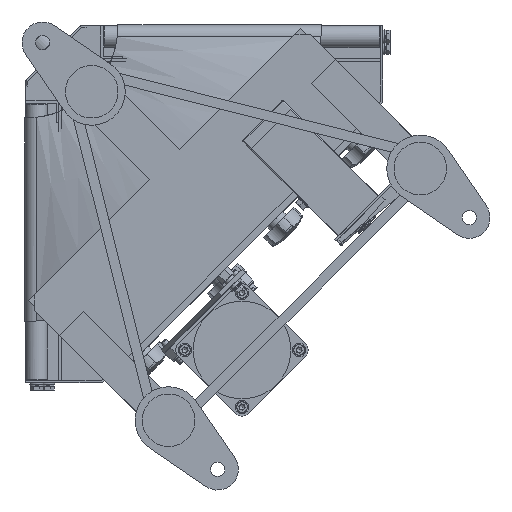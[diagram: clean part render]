
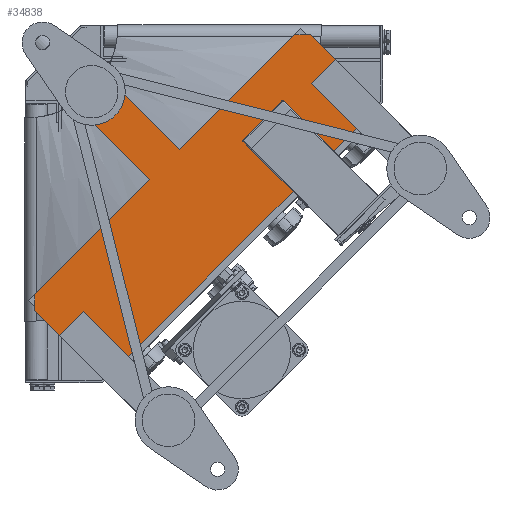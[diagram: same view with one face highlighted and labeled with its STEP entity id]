
A CAD part, front view. The second image highlights one B-rep face of the part: STEP entity #34838.
In plain terms, the highlighted planar face has unit normal (0, -1, 0).
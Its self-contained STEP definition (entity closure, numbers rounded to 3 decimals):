
#2480 = ORIENTED_EDGE ( 'NONE', *, *, #15204, .T. ) ;
#2736 = LINE ( 'NONE', #36239, #4866 ) ;
#3582 = DIRECTION ( 'NONE',  ( 0., 0., -1. ) ) ;
#3995 = VERTEX_POINT ( 'NONE', #4315 ) ;
#4315 = CARTESIAN_POINT ( 'NONE',  ( 39.598, -167.5, -12.728 ) ) ;
#4706 = LINE ( 'NONE', #39845, #39663 ) ;
#4866 = VECTOR ( 'NONE', #49592, 1000. ) ;
#5747 = EDGE_CURVE ( 'NONE', #18286, #42834, #27038, .T. ) ;
#5951 = LINE ( 'NONE', #25533, #46385 ) ;
#6397 = VERTEX_POINT ( 'NONE', #47225 ) ;
#6838 = CARTESIAN_POINT ( 'NONE',  ( 8.132, -167.5, -259.155 ) ) ;
#7046 = DIRECTION ( 'NONE',  ( 0.707, 0., -0.707 ) ) ;
#7194 = DIRECTION ( 'NONE',  ( -0.707, 0., -0.707 ) ) ;
#7715 = PLANE ( 'NONE',  #40273 ) ;
#8864 = ORIENTED_EDGE ( 'NONE', *, *, #52471, .F. ) ;
#9828 = DIRECTION ( 'NONE',  ( -0.707, 0., -0.707 ) ) ;
#10120 = VECTOR ( 'NONE', #7194, 1000. ) ;
#10791 = ORIENTED_EDGE ( 'NONE', *, *, #17393, .T. ) ;
#13250 = EDGE_LOOP ( 'NONE', ( #47433, #2480, #14316, #37993, #30330, #41668, #10791, #33234, #38065, #8864 ) ) ;
#14316 = ORIENTED_EDGE ( 'NONE', *, *, #42445, .T. ) ;
#15204 = EDGE_CURVE ( 'NONE', #41971, #35317, #23435, .T. ) ;
#15475 = VECTOR ( 'NONE', #7046, 1000. ) ;
#15833 = EDGE_CURVE ( 'NONE', #6397, #18286, #18312, .T. ) ;
#16033 = CARTESIAN_POINT ( 'NONE',  ( 12.728, -167.5, -39.598 ) ) ;
#16078 = CARTESIAN_POINT ( 'NONE',  ( 12.728, -167.5, -39.598 ) ) ;
#17393 = EDGE_CURVE ( 'NONE', #25834, #30349, #5951, .T. ) ;
#17764 = FACE_OUTER_BOUND ( 'NONE', #13250, .T. ) ;
#18286 = VERTEX_POINT ( 'NONE', #54275 ) ;
#18312 = LINE ( 'NONE', #6838, #15475 ) ;
#19226 = CARTESIAN_POINT ( 'NONE',  ( 140.007, -167.5, -113.137 ) ) ;
#19718 = LINE ( 'NONE', #43061, #20399 ) ;
#20399 = VECTOR ( 'NONE', #30462, 1000. ) ;
#20447 = DIRECTION ( 'NONE',  ( -1., 0., 0. ) ) ;
#21010 = CARTESIAN_POINT ( 'NONE',  ( 0., -167.5, 0. ) ) ;
#23106 = LINE ( 'NONE', #16033, #57164 ) ;
#23435 = LINE ( 'NONE', #51827, #10120 ) ;
#23575 = VECTOR ( 'NONE', #36753, 1000. ) ;
#25067 = VERTEX_POINT ( 'NONE', #19226 ) ;
#25250 = CARTESIAN_POINT ( 'NONE',  ( 8.132, -167.5, -245.012 ) ) ;
#25533 = CARTESIAN_POINT ( 'NONE',  ( 245.012, -167.5, -8.132 ) ) ;
#25609 = EDGE_CURVE ( 'NONE', #3995, #25067, #40282, .T. ) ;
#25834 = VERTEX_POINT ( 'NONE', #38966 ) ;
#26452 = DIRECTION ( 'NONE',  ( -0.707, 0., 0.707 ) ) ;
#27038 = LINE ( 'NONE', #32271, #23575 ) ;
#27409 = VERTEX_POINT ( 'NONE', #16078 ) ;
#27569 = DIRECTION ( 'NONE',  ( 0.707, 0., -0.707 ) ) ;
#27756 = CARTESIAN_POINT ( 'NONE',  ( 39.598, -167.5, -12.728 ) ) ;
#30330 = ORIENTED_EDGE ( 'NONE', *, *, #5747, .T. ) ;
#30349 = VERTEX_POINT ( 'NONE', #37622 ) ;
#30462 = DIRECTION ( 'NONE',  ( 0.707, 0., 0.707 ) ) ;
#32271 = CARTESIAN_POINT ( 'NONE',  ( 71.771, -167.5, -322.794 ) ) ;
#33234 = ORIENTED_EDGE ( 'NONE', *, *, #54414, .T. ) ;
#34838 = ADVANCED_FACE ( 'NONE', ( #17764 ), #7715, .T. ) ;
#35317 = VERTEX_POINT ( 'NONE', #25250 ) ;
#36239 = CARTESIAN_POINT ( 'NONE',  ( 8.132, -167.5, -259.155 ) ) ;
#36753 = DIRECTION ( 'NONE',  ( 0.707, 0., 0.707 ) ) ;
#37362 = EDGE_CURVE ( 'NONE', #42834, #25834, #4706, .T. ) ;
#37622 = CARTESIAN_POINT ( 'NONE',  ( 245.012, -167.5, -8.132 ) ) ;
#37993 = ORIENTED_EDGE ( 'NONE', *, *, #15833, .T. ) ;
#38065 = ORIENTED_EDGE ( 'NONE', *, *, #25609, .F. ) ;
#38966 = CARTESIAN_POINT ( 'NONE',  ( 259.155, -167.5, -8.132 ) ) ;
#39663 = VECTOR ( 'NONE', #26452, 1000. ) ;
#39845 = CARTESIAN_POINT ( 'NONE',  ( 259.155, -167.5, -8.132 ) ) ;
#40273 = AXIS2_PLACEMENT_3D ( 'NONE', #21010, #56991, #3582 ) ;
#40282 = LINE ( 'NONE', #27756, #43812 ) ;
#41668 = ORIENTED_EDGE ( 'NONE', *, *, #37362, .T. ) ;
#41971 = VERTEX_POINT ( 'NONE', #57254 ) ;
#42445 = EDGE_CURVE ( 'NONE', #35317, #6397, #2736, .T. ) ;
#42834 = VERTEX_POINT ( 'NONE', #50594 ) ;
#43061 = CARTESIAN_POINT ( 'NONE',  ( 12.728, -167.5, -39.598 ) ) ;
#43812 = VECTOR ( 'NONE', #27569, 1000. ) ;
#44951 = VECTOR ( 'NONE', #9828, 1000. ) ;
#46385 = VECTOR ( 'NONE', #20447, 1000. ) ;
#47225 = CARTESIAN_POINT ( 'NONE',  ( 8.132, -167.5, -259.155 ) ) ;
#47433 = ORIENTED_EDGE ( 'NONE', *, *, #55731, .F. ) ;
#48002 = LINE ( 'NONE', #50122, #44951 ) ;
#49592 = DIRECTION ( 'NONE',  ( 0., 0., -1. ) ) ;
#50122 = CARTESIAN_POINT ( 'NONE',  ( 8.132, -167.5, -245.012 ) ) ;
#50594 = CARTESIAN_POINT ( 'NONE',  ( 322.794, -167.5, -71.771 ) ) ;
#51472 = DIRECTION ( 'NONE',  ( -0.707, 0., 0.707 ) ) ;
#51827 = CARTESIAN_POINT ( 'NONE',  ( 8.132, -167.5, -245.012 ) ) ;
#52471 = EDGE_CURVE ( 'NONE', #27409, #3995, #19718, .T. ) ;
#54275 = CARTESIAN_POINT ( 'NONE',  ( 71.771, -167.5, -322.794 ) ) ;
#54414 = EDGE_CURVE ( 'NONE', #30349, #25067, #48002, .T. ) ;
#55731 = EDGE_CURVE ( 'NONE', #41971, #27409, #23106, .T. ) ;
#56991 = DIRECTION ( 'NONE',  ( 0., -1., 0. ) ) ;
#57164 = VECTOR ( 'NONE', #51472, 1000. ) ;
#57254 = CARTESIAN_POINT ( 'NONE',  ( 113.137, -167.5, -140.007 ) ) ;
